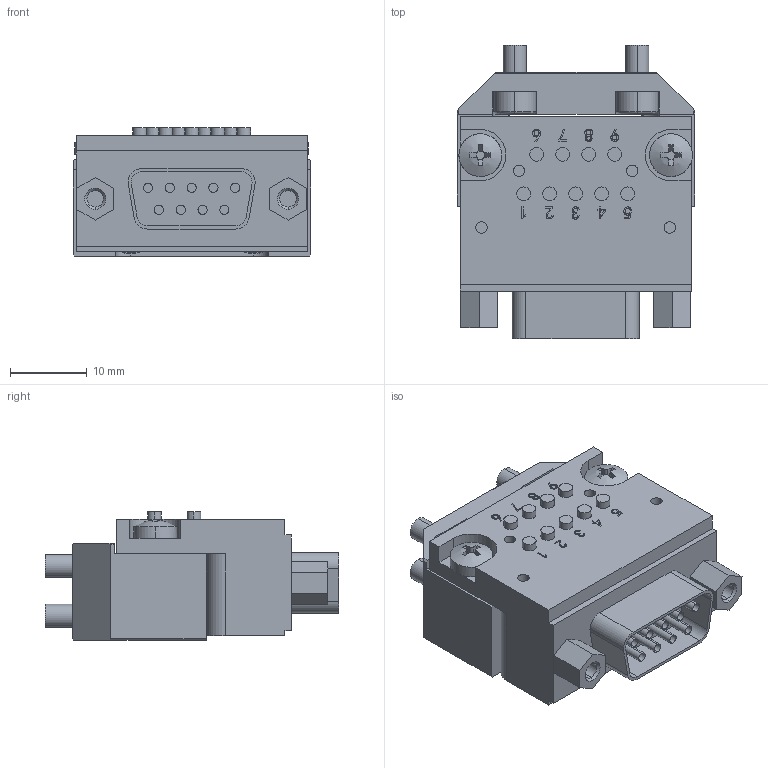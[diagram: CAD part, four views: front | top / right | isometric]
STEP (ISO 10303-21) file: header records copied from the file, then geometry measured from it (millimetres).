
FILE_DESCRIPTION (( 'STEP AP203' ), '1' );
FILE_NAME ('QCSM-9R2.STEP', '2024-02-22T02:22:00', ( '微软用户' ), ( '微软中国' ), 'SwSTEP 2.0', 'SolidWorks 2018', '' );
FILE_SCHEMA (( 'CONFIG_CONTROL_DESIGN' ));
Length unit declared in the file: millimetre
Products named in the file (1): QCSM-9R2
Bounding box: 31 x 38.3 x 16.8 mm (x, y, z)
Surface area: 6797.8 mm2 (no closed solid volume)
Topology: 0 solids, 13 shells, 626 faces, 1511 edges, 964 vertices
Faces by surface type: plane 304, cylinder 184, cone 93, bspline 45
Entity records: 19661 total; most frequent: CARTESIAN_POINT 5288, ORIENTED_EDGE 2988, DIRECTION 2876, EDGE_CURVE 1503, AXIS2_PLACEMENT_3D 1024, VERTEX_POINT 964, VECTOR 828, LINE 828
